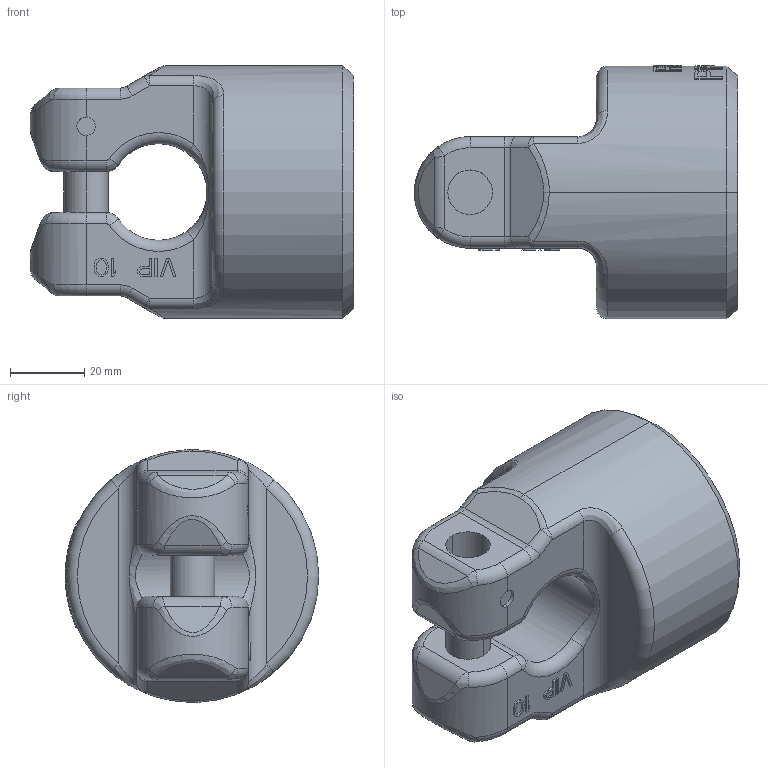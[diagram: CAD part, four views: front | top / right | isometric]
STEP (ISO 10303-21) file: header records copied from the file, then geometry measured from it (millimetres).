
FILE_DESCRIPTION((''),'2;1');
FILE_NAME('001-M31341-P-50_ASM','2018-04-26T',('Anja.Joas'),(''),'PRO/ENGINEER BY PARAMETRIC TECHNOLOGY CORPORATION, 2011490','PRO/ENGINEER BY PARAMETRIC TECHNOLOGY CORPORATION, 2011490','');
FILE_SCHEMA(('CONFIG_CONTROL_DESIGN'));
Length unit declared in the file: millimetre
Products named in the file (2): 001-M31341-P-20_AF0; 001-M31341-P-50_ASM
Assembly tree (1 placements, depth 2):
  001-M31341-P-50_ASM
    001-M31341-P-20_AF0
Bounding box: 87 x 68.25 x 68 mm (x, y, z)
Volume: 195366.4 mm3; surface area: 24076.2 mm2
Topology: 1 solids, 1 shells, 381 faces, 1005 edges, 646 vertices
Faces by surface type: plane 277, cylinder 54, bspline 26, torus 18, sphere 4, cone 2
Entity records: 13396 total; most frequent: CARTESIAN_POINT 4281, ORIENTED_EDGE 2010, DIRECTION 1705, EDGE_CURVE 1005, VERTEX_POINT 646, VECTOR 573, LINE 573, AXIS2_PLACEMENT_3D 566
